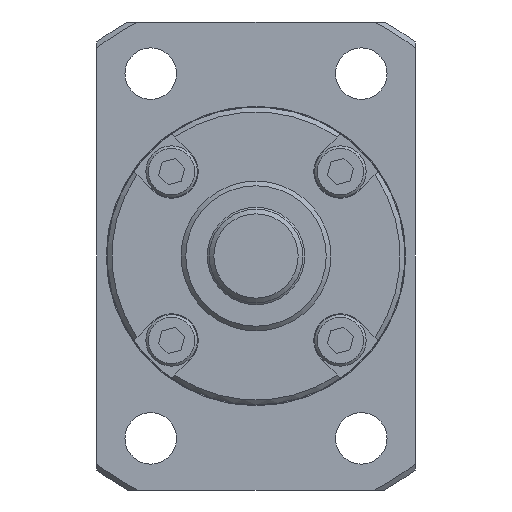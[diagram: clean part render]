
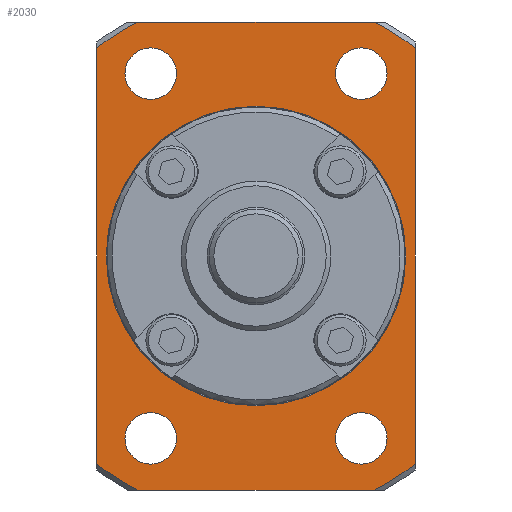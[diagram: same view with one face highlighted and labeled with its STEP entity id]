
A CAD part, left-side view. The second image highlights one B-rep face of the part: STEP entity #2030.
In plain terms, the highlighted planar face has unit normal (-1, 0, 0).
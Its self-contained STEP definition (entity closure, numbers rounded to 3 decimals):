
#187=CIRCLE('',#2260,28.);
#188=CIRCLE('',#2262,28.);
#189=CIRCLE('',#2264,28.);
#190=CIRCLE('',#2266,28.);
#191=CIRCLE('',#2268,14.4);
#192=CIRCLE('',#2269,2.75);
#193=CIRCLE('',#2270,2.75);
#194=CIRCLE('',#2271,2.75);
#195=CIRCLE('',#2272,2.75);
#449=ORIENTED_EDGE('',*,*,#918,.T.);
#450=ORIENTED_EDGE('',*,*,#919,.T.);
#451=ORIENTED_EDGE('',*,*,#920,.T.);
#452=ORIENTED_EDGE('',*,*,#921,.T.);
#453=ORIENTED_EDGE('',*,*,#922,.T.);
#454=ORIENTED_EDGE('',*,*,#907,.F.);
#455=ORIENTED_EDGE('',*,*,#923,.T.);
#456=ORIENTED_EDGE('',*,*,#909,.F.);
#457=ORIENTED_EDGE('',*,*,#924,.T.);
#458=ORIENTED_EDGE('',*,*,#913,.F.);
#459=ORIENTED_EDGE('',*,*,#925,.T.);
#460=ORIENTED_EDGE('',*,*,#915,.F.);
#461=ORIENTED_EDGE('',*,*,#926,.T.);
#907=EDGE_CURVE('',#1147,#1148,#187,.T.);
#909=EDGE_CURVE('',#1149,#1150,#188,.T.);
#913=EDGE_CURVE('',#1151,#1152,#189,.T.);
#915=EDGE_CURVE('',#1153,#1154,#190,.T.);
#918=EDGE_CURVE('',#1155,#1155,#191,.T.);
#919=EDGE_CURVE('',#1156,#1156,#192,.T.);
#920=EDGE_CURVE('',#1157,#1157,#193,.T.);
#921=EDGE_CURVE('',#1158,#1158,#194,.T.);
#922=EDGE_CURVE('',#1159,#1159,#195,.T.);
#923=EDGE_CURVE('',#1147,#1150,#1281,.T.);
#924=EDGE_CURVE('',#1149,#1152,#1282,.T.);
#925=EDGE_CURVE('',#1151,#1154,#1283,.T.);
#926=EDGE_CURVE('',#1153,#1148,#1284,.T.);
#1147=VERTEX_POINT('',#3396);
#1148=VERTEX_POINT('',#3398);
#1149=VERTEX_POINT('',#3405);
#1150=VERTEX_POINT('',#3406);
#1151=VERTEX_POINT('',#3420);
#1152=VERTEX_POINT('',#3422);
#1153=VERTEX_POINT('',#3429);
#1154=VERTEX_POINT('',#3430);
#1155=VERTEX_POINT('',#3441);
#1156=VERTEX_POINT('',#3443);
#1157=VERTEX_POINT('',#3445);
#1158=VERTEX_POINT('',#3447);
#1159=VERTEX_POINT('',#3449);
#1281=LINE('',#3450,#1413);
#1282=LINE('',#3451,#1414);
#1283=LINE('',#3452,#1415);
#1284=LINE('',#3453,#1416);
#1413=VECTOR('',#2721,1000.);
#1414=VECTOR('',#2722,1000.);
#1415=VECTOR('',#2723,1000.);
#1416=VECTOR('',#2724,1000.);
#1569=EDGE_LOOP('',(#449));
#1570=EDGE_LOOP('',(#450));
#1571=EDGE_LOOP('',(#451));
#1572=EDGE_LOOP('',(#452));
#1573=EDGE_LOOP('',(#453));
#1574=EDGE_LOOP('',(#454,#455,#456,#457,#458,#459,#460,#461));
#1778=FACE_BOUND('',#1569,.T.);
#1779=FACE_BOUND('',#1570,.T.);
#1780=FACE_BOUND('',#1571,.T.);
#1781=FACE_BOUND('',#1572,.T.);
#1782=FACE_BOUND('',#1573,.T.);
#1783=FACE_BOUND('',#1574,.T.);
#1922=PLANE('',#2267);
#2030=ADVANCED_FACE('',(#1778,#1779,#1780,#1781,#1782,#1783),#1922,.T.);
#2260=AXIS2_PLACEMENT_3D('',#3397,#2695,#2696);
#2262=AXIS2_PLACEMENT_3D('',#3404,#2699,#2700);
#2264=AXIS2_PLACEMENT_3D('',#3421,#2703,#2704);
#2266=AXIS2_PLACEMENT_3D('',#3428,#2707,#2708);
#2267=AXIS2_PLACEMENT_3D('',#3439,#2709,#2710);
#2268=AXIS2_PLACEMENT_3D('',#3440,#2711,#2712);
#2269=AXIS2_PLACEMENT_3D('',#3442,#2713,#2714);
#2270=AXIS2_PLACEMENT_3D('',#3444,#2715,#2716);
#2271=AXIS2_PLACEMENT_3D('',#3446,#2717,#2718);
#2272=AXIS2_PLACEMENT_3D('',#3448,#2719,#2720);
#2695=DIRECTION('',(1.,0.,0.));
#2696=DIRECTION('',(0.,0.,-1.));
#2699=DIRECTION('',(1.,0.,0.));
#2700=DIRECTION('',(0.,0.,-1.));
#2703=DIRECTION('',(1.,0.,0.));
#2704=DIRECTION('',(0.,0.,-1.));
#2707=DIRECTION('',(1.,0.,0.));
#2708=DIRECTION('',(0.,0.,-1.));
#2709=DIRECTION('',(-1.,0.,0.));
#2710=DIRECTION('',(0.,0.,1.));
#2711=DIRECTION('',(1.,0.,0.));
#2712=DIRECTION('',(0.,0.,-1.));
#2713=DIRECTION('',(1.,0.,0.));
#2714=DIRECTION('',(0.,0.,-1.));
#2715=DIRECTION('',(1.,0.,0.));
#2716=DIRECTION('',(0.,0.,-1.));
#2717=DIRECTION('',(1.,0.,0.));
#2718=DIRECTION('',(0.,0.,-1.));
#2719=DIRECTION('',(1.,0.,0.));
#2720=DIRECTION('',(0.,0.,-1.));
#2721=DIRECTION('',(0.,1.,0.));
#2722=DIRECTION('',(0.,0.,-1.));
#2723=DIRECTION('',(0.,-1.,0.));
#2724=DIRECTION('',(0.,0.,1.));
#3396=CARTESIAN_POINT('',(23.,-12.61,25.));
#3397=CARTESIAN_POINT('',(23.,0.,0.));
#3398=CARTESIAN_POINT('',(23.,-17.,22.249));
#3404=CARTESIAN_POINT('',(23.,0.,0.));
#3405=CARTESIAN_POINT('',(23.,17.,22.249));
#3406=CARTESIAN_POINT('',(23.,12.61,25.));
#3420=CARTESIAN_POINT('',(23.,12.61,-25.));
#3421=CARTESIAN_POINT('',(23.,0.,0.));
#3422=CARTESIAN_POINT('',(23.,17.,-22.249));
#3428=CARTESIAN_POINT('',(23.,0.,0.));
#3429=CARTESIAN_POINT('',(23.,-17.,-22.249));
#3430=CARTESIAN_POINT('',(23.,-12.61,-25.));
#3439=CARTESIAN_POINT('',(23.,28.,0.));
#3440=CARTESIAN_POINT('',(23.,0.,0.));
#3441=CARTESIAN_POINT('',(23.,0.,-14.4));
#3442=CARTESIAN_POINT('',(23.,11.25,19.486));
#3443=CARTESIAN_POINT('',(23.,11.25,16.736));
#3444=CARTESIAN_POINT('',(23.,-11.25,19.486));
#3445=CARTESIAN_POINT('',(23.,-11.25,16.736));
#3446=CARTESIAN_POINT('',(23.,-11.25,-19.486));
#3447=CARTESIAN_POINT('',(23.,-11.25,-22.236));
#3448=CARTESIAN_POINT('',(23.,11.25,-19.486));
#3449=CARTESIAN_POINT('',(23.,11.25,-22.236));
#3450=CARTESIAN_POINT('',(23.,28.,25.));
#3451=CARTESIAN_POINT('',(23.,17.,0.));
#3452=CARTESIAN_POINT('',(23.,28.,-25.));
#3453=CARTESIAN_POINT('',(23.,-17.,0.));
